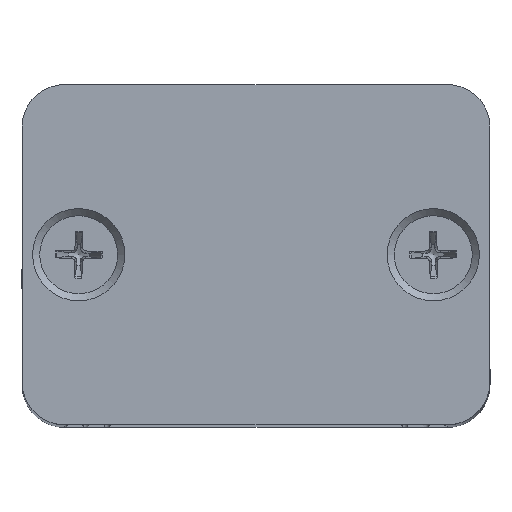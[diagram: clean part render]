
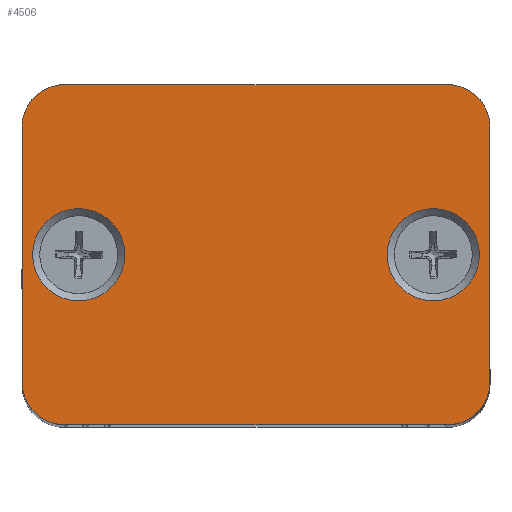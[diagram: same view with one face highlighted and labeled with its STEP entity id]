
A CAD part, top view. The second image highlights one B-rep face of the part: STEP entity #4506.
In plain terms, the highlighted planar face has unit normal (0, 0, 1).
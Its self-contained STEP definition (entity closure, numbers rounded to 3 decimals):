
#4116=CARTESIAN_POINT('',(-29.557,13.942,2.0));
#4117=VERTEX_POINT('',#4116);
#4118=CARTESIAN_POINT('',(-32.807,13.942,2.0));
#4119=DIRECTION('',(0.0,0.0,-1.0));
#4120=DIRECTION('',(1.0,0.0,0.0));
#4121=AXIS2_PLACEMENT_3D('',#4118,#4119,#4120);
#4122=CIRCLE('',#4121,3.25);
#4123=EDGE_CURVE('',#4117,#4117,#4122,.T.);
#4164=CARTESIAN_POINT('',(-4.557,13.942,2.0));
#4165=VERTEX_POINT('',#4164);
#4166=CARTESIAN_POINT('',(-7.807,13.942,2.0));
#4167=DIRECTION('',(0.0,0.0,-1.0));
#4168=DIRECTION('',(1.0,0.0,0.0));
#4169=AXIS2_PLACEMENT_3D('',#4166,#4167,#4168);
#4170=CIRCLE('',#4169,3.25);
#4171=EDGE_CURVE('',#4165,#4165,#4170,.T.);
#4212=CARTESIAN_POINT('',(-33.807,25.942,2.0));
#4213=VERTEX_POINT('',#4212);
#4214=CARTESIAN_POINT('',(-6.807,25.942,2.0));
#4215=VERTEX_POINT('',#4214);
#4216=CARTESIAN_POINT('',(-33.807,25.942,2.0));
#4217=DIRECTION('',(1.0,0.0,0.0));
#4218=VECTOR('',#4217,27.0);
#4219=LINE('',#4216,#4218);
#4220=EDGE_CURVE('',#4213,#4215,#4219,.T.);
#4252=CARTESIAN_POINT('',(-3.807,22.942,2.0));
#4253=VERTEX_POINT('',#4252);
#4254=CARTESIAN_POINT('',(-6.807,22.942,2.0));
#4255=DIRECTION('',(0.0,0.0,-1.0));
#4256=DIRECTION('',(1.0,0.0,0.0));
#4257=AXIS2_PLACEMENT_3D('',#4254,#4255,#4256);
#4258=CIRCLE('',#4257,3.0);
#4259=EDGE_CURVE('',#4215,#4253,#4258,.T.);
#4285=CARTESIAN_POINT('',(-3.807,4.942,2.0));
#4286=VERTEX_POINT('',#4285);
#4287=CARTESIAN_POINT('',(-3.807,22.942,2.0));
#4288=DIRECTION('',(0.0,-1.0,0.0));
#4289=VECTOR('',#4288,18.);
#4290=LINE('',#4287,#4289);
#4291=EDGE_CURVE('',#4253,#4286,#4290,.T.);
#4316=CARTESIAN_POINT('',(-6.807,1.942,2.0));
#4317=VERTEX_POINT('',#4316);
#4318=CARTESIAN_POINT('',(-6.807,4.942,2.0));
#4319=DIRECTION('',(0.0,0.0,-1.0));
#4320=DIRECTION('',(0.0,-1.0,0.0));
#4321=AXIS2_PLACEMENT_3D('',#4318,#4319,#4320);
#4322=CIRCLE('',#4321,3.0);
#4323=EDGE_CURVE('',#4286,#4317,#4322,.T.);
#4349=CARTESIAN_POINT('',(-33.807,1.942,2.0));
#4350=VERTEX_POINT('',#4349);
#4351=CARTESIAN_POINT('',(-6.807,1.942,2.0));
#4352=DIRECTION('',(-1.0,0.0,0.0));
#4353=VECTOR('',#4352,27.0);
#4354=LINE('',#4351,#4353);
#4355=EDGE_CURVE('',#4317,#4350,#4354,.T.);
#4380=CARTESIAN_POINT('',(-36.807,4.942,2.0));
#4381=VERTEX_POINT('',#4380);
#4382=CARTESIAN_POINT('',(-33.807,4.942,2.0));
#4383=DIRECTION('',(0.0,0.0,-1.0));
#4384=DIRECTION('',(-1.0,0.0,0.0));
#4385=AXIS2_PLACEMENT_3D('',#4382,#4383,#4384);
#4386=CIRCLE('',#4385,3.0);
#4387=EDGE_CURVE('',#4350,#4381,#4386,.T.);
#4413=CARTESIAN_POINT('',(-36.807,22.942,2.0));
#4414=VERTEX_POINT('',#4413);
#4415=CARTESIAN_POINT('',(-36.807,4.942,2.0));
#4416=DIRECTION('',(0.0,1.0,0.0));
#4417=VECTOR('',#4416,18.);
#4418=LINE('',#4415,#4417);
#4419=EDGE_CURVE('',#4381,#4414,#4418,.T.);
#4444=CARTESIAN_POINT('',(-33.807,22.942,2.0));
#4445=DIRECTION('',(0.0,0.0,-1.0));
#4446=DIRECTION('',(0.0,1.0,0.0));
#4447=AXIS2_PLACEMENT_3D('',#4444,#4445,#4446);
#4448=CIRCLE('',#4447,3.0);
#4449=EDGE_CURVE('',#4414,#4213,#4448,.T.);
#4485=CARTESIAN_POINT('',(-20.307,13.942,2.0));
#4486=DIRECTION('',(0.0,0.0,1.0));
#4487=DIRECTION('',(1.0,0.0,0.0));
#4488=AXIS2_PLACEMENT_3D('',#4485,#4486,#4487);
#4489=PLANE('',#4488);
#4490=ORIENTED_EDGE('',*,*,#4220,.F.);
#4491=ORIENTED_EDGE('',*,*,#4449,.F.);
#4492=ORIENTED_EDGE('',*,*,#4419,.F.);
#4493=ORIENTED_EDGE('',*,*,#4387,.F.);
#4494=ORIENTED_EDGE('',*,*,#4355,.F.);
#4495=ORIENTED_EDGE('',*,*,#4323,.F.);
#4496=ORIENTED_EDGE('',*,*,#4291,.F.);
#4497=ORIENTED_EDGE('',*,*,#4259,.F.);
#4498=EDGE_LOOP('',(#4490,#4491,#4492,#4493,#4494,#4495,#4496,#4497));
#4499=FACE_OUTER_BOUND('',#4498,.T.);
#4500=ORIENTED_EDGE('',*,*,#4123,.T.);
#4501=EDGE_LOOP('',(#4500));
#4502=FACE_BOUND('',#4501,.T.);
#4503=ORIENTED_EDGE('',*,*,#4171,.T.);
#4504=EDGE_LOOP('',(#4503));
#4505=FACE_BOUND('',#4504,.T.);
#4506=ADVANCED_FACE('',(#4499,#4502,#4505),#4489,.T.);
